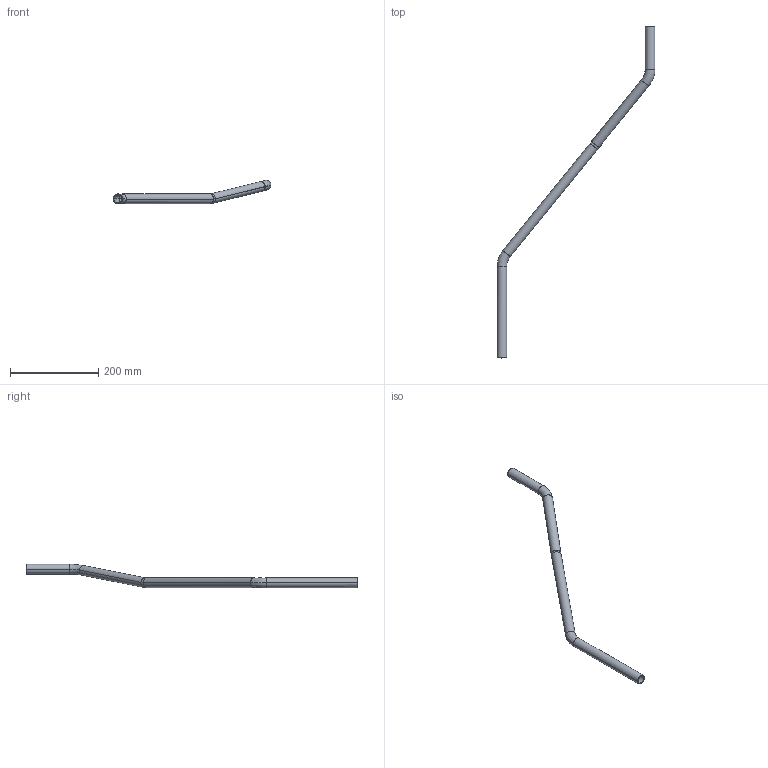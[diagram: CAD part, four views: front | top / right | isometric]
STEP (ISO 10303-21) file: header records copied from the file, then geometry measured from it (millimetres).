
FILE_DESCRIPTION(('CATIA V5 STEP Exchange','CAx-IF Rec.Pracs.--- Model Styling and Organization---1.2---2011-12-15'),'2;1');
FILE_NAME('c:\aplikace\smarteam\Temp\DO584748.step','2016-06-28T13:56:31+00:00',('none'),('none'),'CATIA Version 5 Release 21 SP 6 (IN-10)','CATIA V5 STEP AP214','none');
FILE_SCHEMA(('AUTOMOTIVE_DESIGN { 1 0 10303 214 1 1 1 1 }'));
Length unit declared in the file: millimetre
Products named in the file (1): DO584748, TRUBKA T3
Bounding box: 357 x 750.5 x 52.75 mm (x, y, z)
Volume: 83944.2 mm3; surface area: 112118.8 mm2
Topology: 1 solids, 1 shells, 30 faces, 60 edges, 32 vertices
Faces by surface type: cylinder 16, bspline 8, torus 4, plane 2
Entity records: 1108 total; most frequent: CARTESIAN_POINT 557, ORIENTED_EDGE 120, DIRECTION 68, EDGE_CURVE 60, AXIS2_PLACEMENT_3D 41, EDGE_LOOP 32, VERTEX_POINT 32, ADVANCED_FACE 30
